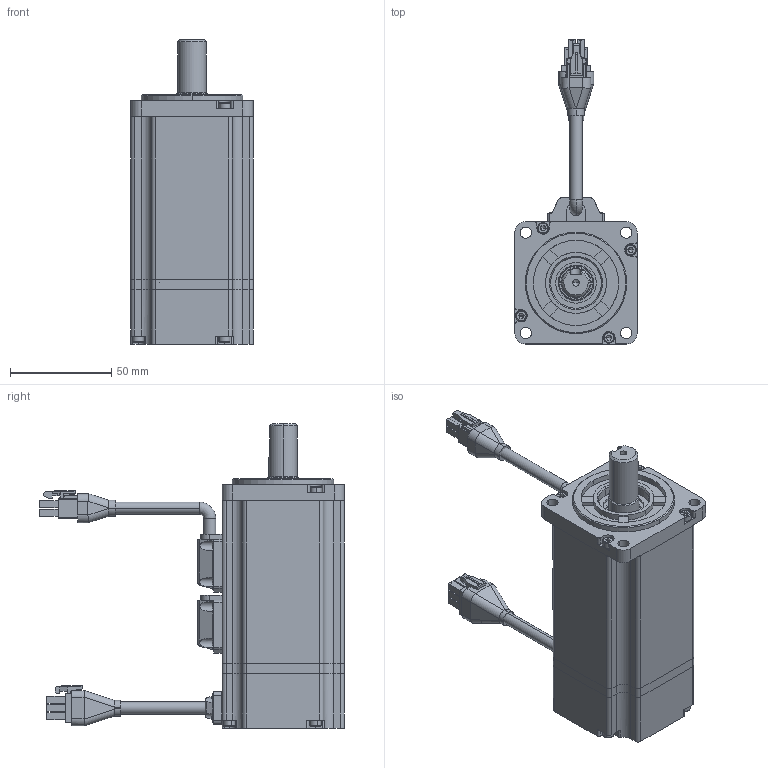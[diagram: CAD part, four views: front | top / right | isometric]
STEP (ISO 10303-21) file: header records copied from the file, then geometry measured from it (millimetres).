
FILE_DESCRIPTION (( 'STEP AP203' ), '1' );
FILE_NAME ('R60-400.STEP', '2019-08-23T07:12:36', ( '1' ), ( 'MideaGroup IT' ), 'SwSTEP 2.0', 'SolidWorks 2012', '' );
FILE_SCHEMA (( 'CONFIG_CONTROL_DESIGN' ));
Products named in the file (26): 6003; 6003_qiu; 6003_bq; 6003_nh; 6003_wq; 萇儂粣-001; 綴裔-001; 綴傷裔-001; ヶ傷裔-001; 儂褲-001; R60-400; 雄薯盄揤裔郪璃; M3X28_GB_FASTENER_SCREWS_HSHCS M3X25-C; 雄薯盄傷赽裔; 雄薯盄; 雄薯盄傷赽; 雄薯盄躇猾菜; 雄薯盄揤裔; 毀嚏盄揤裔郪璃; 毀嚏盄傷赽揤裔; M2.5X5_GB_CROSS_SCREWS_TYPE3 M2.5X8-8-N; 晤鎢ん盄傷赽; 晤鎢ん盄揤裔躇猾; 晤鎢ん盄揤裔; 蛌赽郪璃-001
Assembly tree (56 placements, depth 4):
  R60-400
    儂褲-001
    ヶ傷裔-001
    綴傷裔-001
    綴裔-001
    蛌赽郪璃-001
      萇儂粣-001
      6003
        6003_wq
        6003_nh
        6003_bq
        6003_qiu  x11
    毀嚏盄揤裔郪璃
      晤鎢ん盄揤裔
      晤鎢ん盄揤裔躇猾
      晤鎢ん盄傷赽
      M2.5X5_GB_CROSS_SCREWS_TYPE3 M2.5X8-8-N  x4
      毀嚏盄傷赽揤裔
    雄薯盄揤裔郪璃
      雄薯盄揤裔
      雄薯盄躇猾菜
      雄薯盄傷赽
      雄薯盄
      M2.5X5_GB_CROSS_SCREWS_TYPE3 M2.5X8-8-N  x4
      雄薯盄傷赽裔
    M3X28_GB_FASTENER_SCREWS_HSHCS M3X25-C  x8
    雄薯盄揤裔郪璃
      雄薯盄揤裔
      雄薯盄躇猾菜
      雄薯盄
      M2.5X5_GB_CROSS_SCREWS_TYPE3 M2.5X8-8-N  x4
Bounding box: 60.2 x 150 x 150 mm (x, y, z)
Volume: 153229.3 mm3; surface area: 108601.8 mm2
Topology: 56 solids, 82 shells, 1826 faces, 4936 edges, 3258 vertices
Faces by surface type: plane 904, cylinder 709, cone 89, torus 56, sphere 46, bspline 22
Entity records: 46518 total; most frequent: CARTESIAN_POINT 11888, DIRECTION 6590, ORIENTED_EDGE 6245, EDGE_CURVE 3303, AXIS2_PLACEMENT_3D 2334, VERTEX_POINT 2198, LINE 1922, VECTOR 1922
